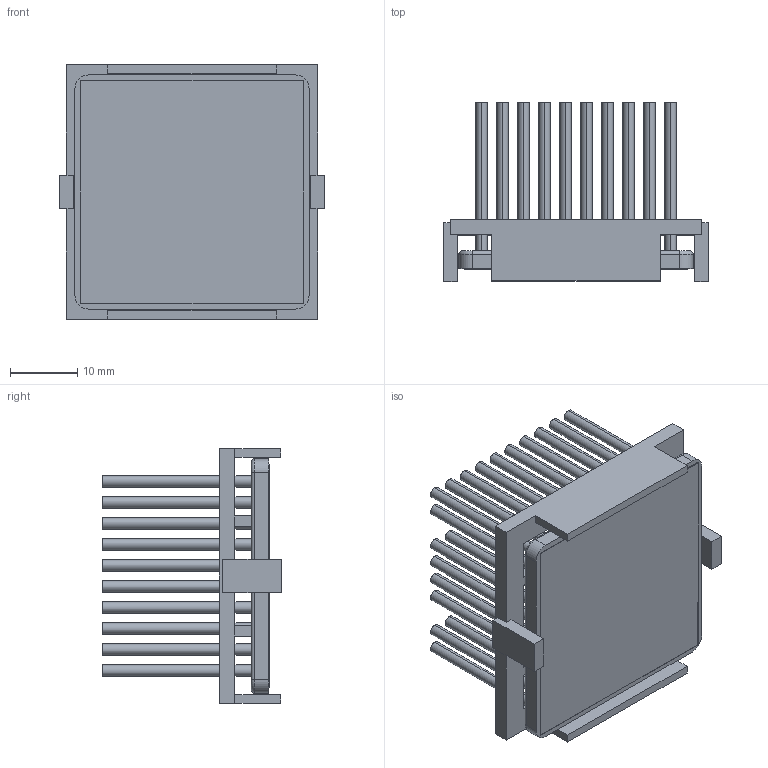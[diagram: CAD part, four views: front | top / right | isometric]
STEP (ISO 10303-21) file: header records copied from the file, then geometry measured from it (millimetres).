
FILE_DESCRIPTION (( 'STEP AP214' ), '1' );
FILE_NAME ('INM35002-25P-2.6BU.STEP', '2023-02-20T23:59:38', ( '' ), ( '' ), 'SwSTEP 2.0', 'SolidWorks 2020', '' );
FILE_SCHEMA (( 'AUTOMOTIVE_DESIGN' ));
Length unit declared in the file: inch
Products named in the file (1): INM35002-25P-2.6BU
Bounding box: 39.2 x 26.5 x 37.7 mm (x, y, z)
Volume: 9526.9 mm3; surface area: 18337.1 mm2
Topology: 3 solids, 3 shells, 354 faces, 760 edges, 504 vertices
Faces by surface type: cylinder 192, plane 158, torus 4
Entity records: 14416 total; most frequent: DIRECTION 1858, CARTESIAN_POINT 1619, ORIENTED_EDGE 1520, EDGE_CURVE 760, AXIS2_PLACEMENT_3D 743, VERTEX_POINT 504, EDGE_LOOP 448, CIRCLE 388
